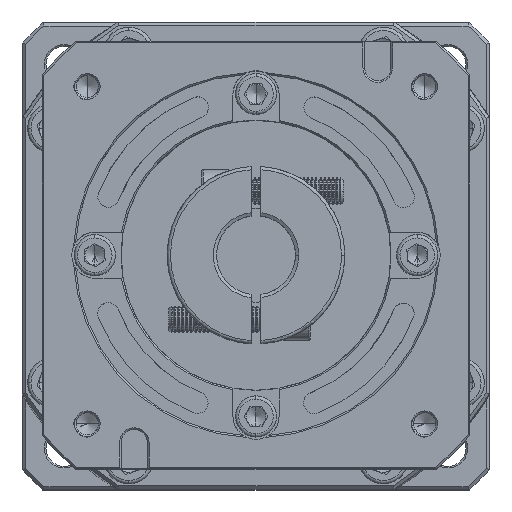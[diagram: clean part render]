
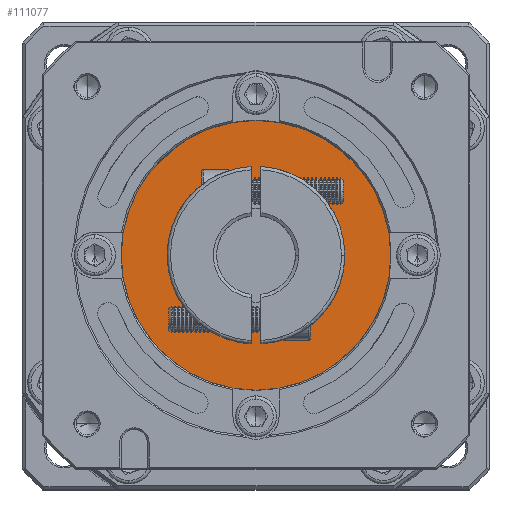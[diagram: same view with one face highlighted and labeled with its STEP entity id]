
A CAD part, top view. The second image highlights one B-rep face of the part: STEP entity #111077.
In plain terms, the highlighted planar face has unit normal (0, 0, 1).
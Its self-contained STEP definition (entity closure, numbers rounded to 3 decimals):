
#459 = CARTESIAN_POINT ( 'NONE',  ( -330.369, 194.394, -40.185 ) ) ;
#1677 = FACE_OUTER_BOUND ( 'NONE', #127215, .T. ) ;
#3824 = VERTEX_POINT ( 'NONE', #88278 ) ;
#5947 = CIRCLE ( 'NONE', #42450, 41. ) ;
#7197 = EDGE_CURVE ( 'NONE', #69842, #3824, #5947, .T. ) ;
#9215 = CARTESIAN_POINT ( 'NONE',  ( -330.369, 214.394, -40.185 ) ) ;
#15236 = CIRCLE ( 'NONE', #71347, 41. ) ;
#21783 = DIRECTION ( 'NONE',  ( 0., 1., 0. ) ) ;
#21941 = AXIS2_PLACEMENT_3D ( 'NONE', #84073, #124245, #21783 ) ;
#23154 = EDGE_CURVE ( 'NONE', #3824, #69842, #15236, .T. ) ;
#24205 = FACE_BOUND ( 'NONE', #24494, .T. ) ;
#24494 = EDGE_LOOP ( 'NONE', ( #91121, #88600 ) ) ;
#27584 = CARTESIAN_POINT ( 'NONE',  ( -330.369, 235.394, -40.185 ) ) ;
#28876 = CARTESIAN_POINT ( 'NONE',  ( -330.369, 194.394, -40.185 ) ) ;
#29085 = CIRCLE ( 'NONE', #21941, 20. ) ;
#31664 = AXIS2_PLACEMENT_3D ( 'NONE', #459, #71686, #41212 ) ;
#36152 = CARTESIAN_POINT ( 'NONE',  ( -330.369, 194.394, -40.185 ) ) ;
#36787 = VERTEX_POINT ( 'NONE', #9215 ) ;
#41212 = DIRECTION ( 'NONE',  ( 0., 1., 0. ) ) ;
#41818 = AXIS2_PLACEMENT_3D ( 'NONE', #28876, #49532, #121069 ) ;
#42450 = AXIS2_PLACEMENT_3D ( 'NONE', #54498, #75098, #117490 ) ;
#45871 = ORIENTED_EDGE ( 'NONE', *, *, #7197, .T. ) ;
#46421 = CARTESIAN_POINT ( 'NONE',  ( -330.369, 174.394, -40.185 ) ) ;
#47545 = ORIENTED_EDGE ( 'NONE', *, *, #23154, .T. ) ;
#49532 = DIRECTION ( 'NONE',  ( 0., 0., 1. ) ) ;
#50857 = PLANE ( 'NONE',  #41818 ) ;
#54498 = CARTESIAN_POINT ( 'NONE',  ( -330.369, 194.394, -40.185 ) ) ;
#69842 = VERTEX_POINT ( 'NONE', #27584 ) ;
#71347 = AXIS2_PLACEMENT_3D ( 'NONE', #36152, #127909, #76936 ) ;
#71686 = DIRECTION ( 'NONE',  ( 0., 0., -1. ) ) ;
#75098 = DIRECTION ( 'NONE',  ( 0., 0., 1. ) ) ;
#76936 = DIRECTION ( 'NONE',  ( 0., 1., 0. ) ) ;
#79069 = VERTEX_POINT ( 'NONE', #46421 ) ;
#84073 = CARTESIAN_POINT ( 'NONE',  ( -330.369, 194.394, -40.185 ) ) ;
#88278 = CARTESIAN_POINT ( 'NONE',  ( -330.369, 153.394, -40.185 ) ) ;
#88600 = ORIENTED_EDGE ( 'NONE', *, *, #100314, .T. ) ;
#91121 = ORIENTED_EDGE ( 'NONE', *, *, #111643, .T. ) ;
#100314 = EDGE_CURVE ( 'NONE', #79069, #36787, #29085, .T. ) ;
#111077 = ADVANCED_FACE ( 'NONE', ( #1677, #24205 ), #50857, .T. ) ;
#111643 = EDGE_CURVE ( 'NONE', #36787, #79069, #119994, .T. ) ;
#117490 = DIRECTION ( 'NONE',  ( 0., 1., 0. ) ) ;
#119994 = CIRCLE ( 'NONE', #31664, 20. ) ;
#121069 = DIRECTION ( 'NONE',  ( 0., 1., 0. ) ) ;
#124245 = DIRECTION ( 'NONE',  ( 0., 0., -1. ) ) ;
#127215 = EDGE_LOOP ( 'NONE', ( #45871, #47545 ) ) ;
#127909 = DIRECTION ( 'NONE',  ( 0., 0., 1. ) ) ;
